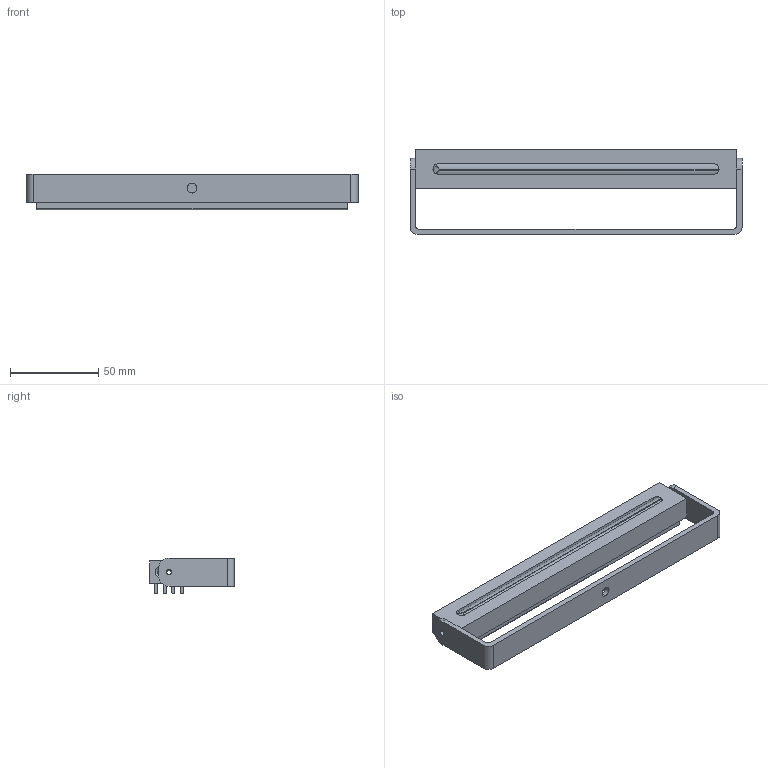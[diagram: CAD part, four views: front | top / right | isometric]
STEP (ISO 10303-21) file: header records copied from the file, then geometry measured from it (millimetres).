
FILE_DESCRIPTION (( 'STEP AP214' ), '1' );
FILE_NAME ('ST-LB170W-T.STEP', '2021-01-20T14:46:44', ( '' ), ( '' ), 'SwSTEP 2.0', 'SolidWorks 2015', '' );
FILE_SCHEMA (( 'AUTOMOTIVE_DESIGN' ));
Length unit declared in the file: millimetre
Products named in the file (5): DIS-067; ST-LB170W-T; Aro; Suporte; LED
Assembly tree (4 placements, depth 2):
  ST-LB170W-T
    LED
    DIS-067
    Aro
    Suporte
Bounding box: 188 x 48 x 20.35 mm (x, y, z)
Volume: 58320.9 mm3; surface area: 57248.7 mm2
Topology: 4 solids, 4 shells, 161 faces, 437 edges, 282 vertices
Faces by surface type: cylinder 72, plane 64, cone 21, bspline 4
Entity records: 6167 total; most frequent: CARTESIAN_POINT 1601, ORIENTED_EDGE 866, DIRECTION 859, EDGE_CURVE 433, AXIS2_PLACEMENT_3D 304, VERTEX_POINT 282, VECTOR 251, LINE 251
